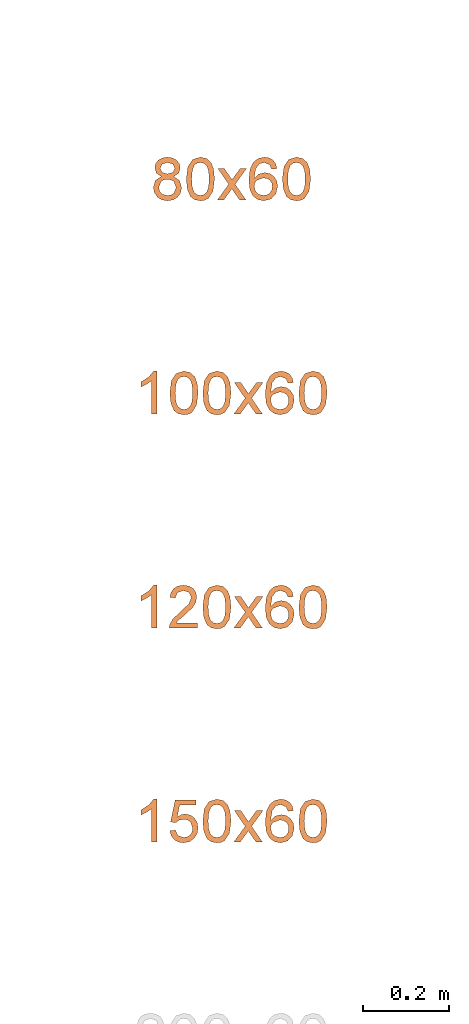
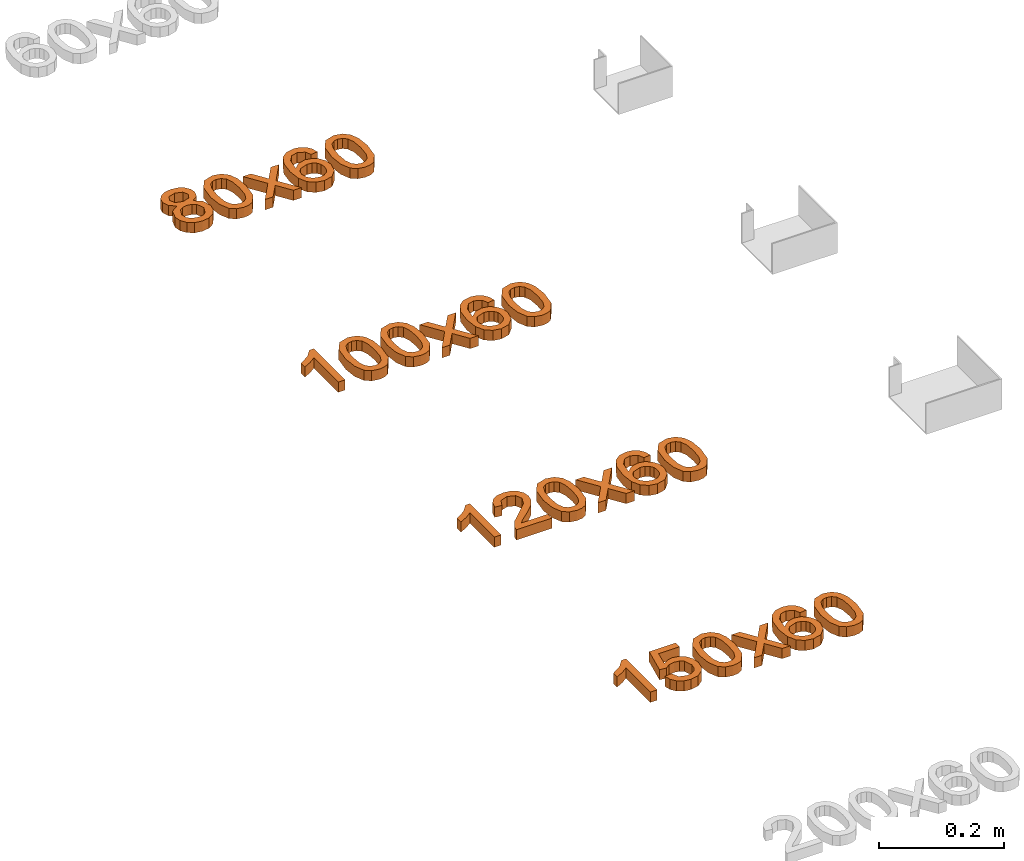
# One storey, part 44 of 71: 4 proxies.
"""IFC2X3 building model written with IfcOpenShell, lengths in millimetres."""

from ifc_helpers import new_model, entity, si_unit, converted_unit, derived_unit, direction, frame, origin, place, context, subcontext, project, spatial, polyline, outline, extrude, element, save


model = new_model("IFC2X3")

# Units and contexts
model_context = context("Model", 3, precision=0.01, world=origin(), true_north=direction((6.12303176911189e-17, 1.0)))
body_context = subcontext(model_context, "Body", "Model", "MODEL_VIEW")
ifc_project = project(units=[si_unit("LENGTHUNIT", "METRE", prefix="MILLI"), si_unit("AREAUNIT", "SQUARE_METRE"), si_unit("VOLUMEUNIT", "CUBIC_METRE"), converted_unit("PLANEANGLEUNIT", "DEGREE", entity("IfcRatioMeasure", 0.0174532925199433), si_unit("PLANEANGLEUNIT", "RADIAN"), dimensions=[0, 0, 0, 0, 0, 0, 0]), si_unit("MASSUNIT", "GRAM", prefix="KILO"), derived_unit("MASSDENSITYUNIT", [(si_unit("MASSUNIT", "GRAM", prefix="KILO"), 1), (si_unit("LENGTHUNIT", "METRE"), -3)]), si_unit("TIMEUNIT", "SECOND"), si_unit("FREQUENCYUNIT", "HERTZ"), si_unit("THERMODYNAMICTEMPERATUREUNIT", "DEGREE_CELSIUS"), derived_unit("THERMALTRANSMITTANCEUNIT", [(si_unit("MASSUNIT", "GRAM", prefix="KILO"), 1), (si_unit("THERMODYNAMICTEMPERATUREUNIT", "KELVIN"), -1), (si_unit("TIMEUNIT", "SECOND"), -3)]), derived_unit("VOLUMETRICFLOWRATEUNIT", [(si_unit("LENGTHUNIT", "METRE"), 3), (si_unit("TIMEUNIT", "SECOND"), -1)]), si_unit("ELECTRICCURRENTUNIT", "AMPERE"), si_unit("ELECTRICVOLTAGEUNIT", "VOLT"), si_unit("POWERUNIT", "WATT"), si_unit("FORCEUNIT", "NEWTON", prefix="KILO"), si_unit("ILLUMINANCEUNIT", "LUX"), si_unit("LUMINOUSFLUXUNIT", "LUMEN"), si_unit("LUMINOUSINTENSITYUNIT", "CANDELA"), derived_unit("USERDEFINED", [(si_unit("MASSUNIT", "GRAM", prefix="KILO"), -1), (si_unit("LENGTHUNIT", "METRE"), -2), (si_unit("TIMEUNIT", "SECOND"), 3), (si_unit("LUMINOUSFLUXUNIT", "LUMEN"), 1)]), derived_unit("LINEARVELOCITYUNIT", [(si_unit("LENGTHUNIT", "METRE"), 1), (si_unit("TIMEUNIT", "SECOND"), -1)]), si_unit("PRESSUREUNIT", "PASCAL"), derived_unit("USERDEFINED", [(si_unit("LENGTHUNIT", "METRE"), -2), (si_unit("MASSUNIT", "GRAM", prefix="KILO"), 1), (si_unit("TIMEUNIT", "SECOND"), -2)])], contexts=[model_context])

# Site, building, storey
site_placement = place(None, origin())
site = spatial("IfcSite", under=ifc_project, at=site_placement, Name="Default", CompositionType="ELEMENT")
building_placement = place(site_placement, origin())
building = spatial("IfcBuilding", under=site, at=building_placement, Name="Наименование здания", CompositionType="ELEMENT")
storey_placement = place(building_placement, origin())
storey = spatial("IfcBuildingStorey", under=building, at=storey_placement, Name="Этаж 01", CompositionType="ELEMENT", Elevation=0.0)

# Proxies
proxy_1_placement = place(storey_placement, origin())
element("IfcBuildingElementProxy", 1, at=proxy_1_placement, inside=storey, Name="Текст модели:100 мм Arial", ObjectType="Текст модели:100 мм Arial", context=body_context, shape_type="SweptSolid", body=[
    extrude(outline(polyline([(10.1224324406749, -11.2212127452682), (26.4477736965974, -11.2212127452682), (39.6861381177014, -0.090941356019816), (44.6322314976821, 11.3078156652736), (44.5856416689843, 23.416860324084), (39.6073830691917, 34.8346290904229), (29.7584701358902, 44.1595584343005), (17.4236057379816, 49.795656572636), (4.98749274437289, 50.1469317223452), (-6.20047708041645, 45.7236060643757), (-14.7909119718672, 37.0359017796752), (-20.0781666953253, 21.0056847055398), (-14.5070621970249, 5.37692494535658), (-28.0684052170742, 5.15563707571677), (-37.7221714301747, -2.6084501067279), (-41.5236361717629, -11.9357006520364), (-41.0036870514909, -22.2232653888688), (-36.1916154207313, -32.1870777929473), (-27.116712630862, -40.5430713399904), (-16.050329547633, -45.8123091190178), (-5.18246445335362, -46.5706787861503), (4.38453303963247, -43.2361071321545), (11.5483133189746, -36.2265209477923), (15.2516244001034, -24.0826582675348), (10.1224324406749, -11.2212127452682)]), holes=[polyline([(1.34077476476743, -28.9039041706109), (-7.53771017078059, -33.9815875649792), (-20.2415350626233, -30.0339976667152), (-28.5905650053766, -19.6902819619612), (-26.9800933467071, -9.13787919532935), (-18.1108932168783, -3.87648928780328), (-5.45128168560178, -7.82385811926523), (3.15927028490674, -18.2403048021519), (1.34077476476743, -28.9039041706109)]), polyline([(29.0262968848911, 6.56051660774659), (17.1806533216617, -1.51571690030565), (9.68494123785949, -1.27757268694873), (1.95268767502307, 2.32885586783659), (-4.46267094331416, 8.27886886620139), (-7.6416115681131, 15.3010558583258), (-4.59707955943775, 29.692946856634), (7.31333657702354, 37.7994665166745), (14.8367372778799, 37.4872096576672), (22.6595729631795, 33.8012523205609), (30.3730358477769, 25.5864099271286), (32.5711030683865, 15.5727469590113), (29.0262968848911, 6.56051660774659)])]), frame((12991.8607415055, -411.654222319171, 0.0), z_axis=(0.0, 0.0, 1.0), x_axis=(-0.829266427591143, -0.558853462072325, 0.0)), (0.0, 0.0, 1.0), 20.0),
    extrude(outline(polyline([(-7.02884310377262, -33.3490673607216), (17.5323805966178, -33.3490673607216), (35.1984171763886, -27.6137612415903), (43.343984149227, -18.4876517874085), (47.0516941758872, -5.7515066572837), (46.716202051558, 4.48638208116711), (43.4465778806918, 13.0955287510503), (27.9444305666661, 25.6659118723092), (-0.314338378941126, 32.2325535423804), (-24.0296505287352, 32.367828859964), (-39.4143020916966, 28.026088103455), (-49.7293680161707, 18.9002174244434), (-54.4436715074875, 4.63998875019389), (-50.8676582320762, -14.1301059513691), (-35.4058547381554, -26.7333390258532), (-7.02884310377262, -33.3490673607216)]), holes=[polyline([(-5.77428774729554, -20.8548320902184), (-25.0157644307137, -17.3562860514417), (-36.7257089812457, -11.5717922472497), (-41.0962588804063, -4.77599682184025), (-41.9669219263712, 3.21464792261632), (-39.2244253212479, 11.2791292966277), (-32.865406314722, 17.2229259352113), (-20.9698370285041, 20.2947501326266), (-1.61768958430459, 19.7433141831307), (17.8514140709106, 16.2707701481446), (28.7803640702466, 10.7141596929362), (33.5546988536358, 3.61815959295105), (34.5599568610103, -4.47255337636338), (31.9421230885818, -12.1923199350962), (25.8471825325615, -18.1754808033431), (14.0250679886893, -21.4027476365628), (-5.77428774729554, -20.8548320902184)])]), frame((13069.7029366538, -417.512078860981, 0.0), z_axis=(0.0, 0.0, 1.0), x_axis=(0.1018515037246, -0.994799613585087, 0.0)), (0.0, 0.0, 1.0), 20.0),
    extrude(outline(polyline([(-34.530221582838, -38.4265006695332), (-19.422534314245, -38.4265006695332), (-0.341721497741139, -12.0616243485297), (2.47870713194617, -16.1328517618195), (17.8561745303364, -38.4265006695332), (32.9638617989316, -38.4265006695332), (7.40832586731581, -1.34399555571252), (33.944880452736, 35.3461020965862), (18.8371931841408, 35.3461020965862), (4.95577923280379, 16.1671874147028), (0.0261604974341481, 9.34910777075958), (-5.66374769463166, 17.6877663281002), (-17.8529044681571, 35.3461020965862), (-32.9605917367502, 35.3461020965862), (-7.6993614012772, -1.34399555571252), (-34.530221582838, -38.4265006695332)])), frame((13142.5445935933, -424.908755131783, 0.0)), (0.0, 0.0, 1.0), 20.0),
    extrude(outline(polyline([(6.79275401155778, -32.5027761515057), (18.3659045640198, -32.5027761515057), (28.1525204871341, -28.8011371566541), (35.6312934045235, -21.7178704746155), (40.2809149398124, -11.5729874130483), (41.4130789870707, 3.23667074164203), (36.1391243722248, 16.3729018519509), (21.8599739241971, 28.8803269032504), (-1.50836821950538, 38.2054593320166), (-23.6059131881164, 41.7609274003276), (-39.9814227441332, 38.5965283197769), (-51.1650797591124, 29.9216784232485), (-57.6870671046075, 16.945794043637), (-57.9805556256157, -0.0494879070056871), (-49.2081886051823, -14.3141019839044), (-33.6167855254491, -22.9350568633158), (-20.6265742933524, -24.2502330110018), (-8.97800352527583, -20.6254922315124), (0.0919027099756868, -13.035096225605), (5.34612034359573, -2.45330669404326), (5.8548316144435, 11.6447254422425), (-0.843339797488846, 24.9910631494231), (19.7707676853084, 15.5765036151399), (28.4840991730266, 4.267661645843), (28.3893512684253, -7.46374532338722), (19.995625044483, -18.1936336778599), (8.63303585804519, -19.9825396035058), (6.79275401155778, -32.5027761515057)]), holes=[polyline([(-18.7586717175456, 29.9549594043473), (-11.6328110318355, 26.3613362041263), (-6.94154076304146, 20.203831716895), (-5.85783236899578, 4.13761066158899), (-9.48331864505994, -3.95286412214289), (-15.1077394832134, -9.26901644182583), (-22.3091633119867, -11.5969098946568), (-30.665658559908, -10.7226080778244), (-38.6094491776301, -7.06141592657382), (-43.8637090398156, -1.22509865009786), (-46.18352871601, 6.17768396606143), (-45.3239987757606, 14.5382721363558), (-39.6901171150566, 24.7221971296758), (-30.0168134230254, 30.0585493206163), (-18.7586717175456, 29.9549594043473)])]), frame((13218.2025234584, -404.787517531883, 0.0), z_axis=(0.0, 0.0, 1.0), x_axis=(-0.267015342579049, 0.963692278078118, 0.0)), (0.0, 0.0, 1.0), 20.0),
    extrude(outline(polyline([(-7.02884310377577, -33.3490673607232), (17.5323805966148, -33.3490673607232), (35.1984171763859, -27.6137612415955), (43.3439841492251, -18.4876517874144), (47.0516941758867, -5.75150665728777), (46.7162020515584, 4.48638208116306), (43.4465778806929, 13.0955287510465), (27.9444305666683, 25.6659118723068), (-0.314338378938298, 32.2325535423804), (-24.0296505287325, 32.367828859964), (-39.4143020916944, 28.0260881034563), (-49.7293680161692, 18.9002174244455), (-54.4436715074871, 4.6399887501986), (-50.8676582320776, -14.1301059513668), (-35.4058547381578, -26.7333390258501), (-7.02884310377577, -33.3490673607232)]), holes=[polyline([(-5.77428774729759, -20.85483209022), (-25.0157644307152, -17.3562860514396), (-36.7257089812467, -11.5717922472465), (-41.0962588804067, -4.77599682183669), (-41.9669219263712, 3.2146479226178), (-39.2244253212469, 11.2791292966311), (-32.8654063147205, 17.2229259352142), (-20.9698370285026, 20.2947501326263), (-1.61768958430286, 19.7433141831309), (17.851414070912, 16.270770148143), (28.7803640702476, 10.7141596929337), (33.5546988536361, 3.61815959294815), (34.5599568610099, -4.47255337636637), (31.9421230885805, -12.1923199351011), (25.8471825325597, -18.1754808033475), (14.0250679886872, -21.4027476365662), (-5.77428774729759, -20.85483209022)])]), frame((13294.1600046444, -417.512078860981, 0.0), z_axis=(0.0, 0.0, 1.0), x_axis=(0.101851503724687, -0.994799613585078, 0.0)), (0.0, 0.0, 1.0), 20.0),
])
proxy_2_placement = place(storey_placement, origin())
element("IfcBuildingElementProxy", 2, at=proxy_2_placement, inside=storey, Name="Текст модели:100 мм Arial", ObjectType="Текст модели:100 мм Arial", context=body_context, shape_type="SweptSolid", body=[
    extrude(outline(polyline([(-63.8793021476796, -16.918484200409), (36.5770080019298, -16.918484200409), (36.5770080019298, -8.825080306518), (23.2106288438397, 2.34626961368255), (11.4629304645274, 20.7526321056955), (-0.407395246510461, 20.7526321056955), (5.93243780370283, 7.53340574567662), (14.4059864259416, -4.36144543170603), (-63.8793021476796, -4.36144543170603), (-63.8793021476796, -16.918484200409)])), frame((12950.6140165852, -1399.45595365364, 0.0), z_axis=(0.0, 0.0, 1.0), x_axis=(0.0, 1.0, 0.0)), (0.0, 0.0, 1.0), 20.0),
    extrude(outline(polyline([(-32.385878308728, -45.1669477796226), (-32.385878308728, -57.7239865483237), (33.5385752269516, -57.7239865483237), (32.1896745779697, -49.0664969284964), (24.5622545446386, -35.736905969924), (8.84143061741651, -21.1810416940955), (-12.8390816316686, -0.260818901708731), (-18.2592096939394, 13.9639515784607), (-13.1456499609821, 25.4786580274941), (0.208466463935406, 30.1752848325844), (14.1266686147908, 25.5890226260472), (19.4119066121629, 12.9093565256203), (31.9689453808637, 14.4789863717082), (28.9247218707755, 26.6252235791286), (22.3426998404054, 35.4973110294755), (12.5662358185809, 40.9235704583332), (-0.0613136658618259, 42.7323236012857), (-12.7808336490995, 40.721235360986), (-22.5389035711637, 34.6879706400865), (-28.746912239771, 25.6748617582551), (-30.8162484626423, 14.7242410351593), (-28.5844310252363, 2.81712712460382), (-21.1654774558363, -9.49465698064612), (-3.17604789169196, -26.6992716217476), (11.2694517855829, -38.778063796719), (16.9348345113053, -45.1669477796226), (-32.385878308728, -45.1669477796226)])), frame((13029.3244132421, -1405.61126925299, 0.0), z_axis=(0.0, 0.0, -1.0), x_axis=(-1.0, 0.0, 0.0)), (0.0, 0.0, -1.0), 20.0),
    extrude(outline(polyline([(-7.0288431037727, -33.3490673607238), (17.5323805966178, -33.3490673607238), (35.1984171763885, -27.6137612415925), (43.3439841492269, -18.4876517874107), (47.051694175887, -5.75150665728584), (46.7162020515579, 4.48638208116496), (43.4465778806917, 13.0955287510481), (27.9444305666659, 25.665911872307), (-0.31433837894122, 32.2325535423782), (-24.0296505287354, 32.3678288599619), (-39.4143020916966, 28.0260881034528), (-49.7293680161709, 18.9002174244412), (-54.4436715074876, 4.6399887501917), (-50.8676582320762, -14.1301059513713), (-35.4058547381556, -26.7333390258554), (-7.0288431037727, -33.3490673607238)]), holes=[polyline([(-5.77428774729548, -20.8548320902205), (-25.0157644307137, -17.3562860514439), (-36.7257089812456, -11.5717922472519), (-41.0962588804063, -4.77599682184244), (-41.9669219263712, 3.21464792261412), (-39.2244253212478, 11.2791292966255), (-32.8654063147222, 17.2229259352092), (-20.9698370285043, 20.2947501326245), (-1.61768958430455, 19.7433141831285), (17.8514140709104, 16.2707701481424), (28.7803640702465, 10.7141596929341), (33.5546988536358, 3.61815959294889), (34.5599568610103, -4.47255337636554), (31.9421230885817, -12.1923199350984), (25.8471825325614, -18.1754808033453), (14.0250679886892, -21.402747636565), (-5.77428774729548, -20.8548320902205)])]), frame((13108.158867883, -1417.51207886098, 0.0), z_axis=(0.0, 0.0, 1.0), x_axis=(0.1018515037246, -0.994799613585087, 0.0)), (0.0, 0.0, 1.0), 20.0),
    extrude(outline(polyline([(-34.5302215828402, -38.4265006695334), (-19.4225343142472, -38.4265006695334), (-0.341721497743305, -12.0616243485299), (2.478707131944, -16.1328517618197), (17.8561745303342, -38.4265006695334), (32.9638617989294, -38.4265006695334), (7.40832586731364, -1.34399555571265), (33.9448804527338, 35.3461020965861), (18.8371931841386, 35.3461020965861), (4.95577923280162, 16.1671874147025), (0.0261604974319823, 9.34910777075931), (-5.66374769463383, 17.6877663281), (-17.8529044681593, 35.3461020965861), (-32.9605917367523, 35.3461020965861), (-7.69936140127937, -1.34399555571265), (-34.5302215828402, -38.4265006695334)])), frame((13181.0005248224, -1424.90875513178, 0.0)), (0.0, 0.0, 1.0), 20.0),
    extrude(outline(polyline([(6.79275401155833, -32.5027761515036), (18.3659045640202, -32.5027761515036), (28.1525204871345, -28.8011371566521), (35.6312934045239, -21.7178704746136), (40.280914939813, -11.5729874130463), (41.4130789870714, 3.23667074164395), (36.1391243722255, 16.3729018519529), (21.8599739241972, 28.8803269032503), (-1.50836821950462, 38.2054593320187), (-23.6059131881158, 41.7609274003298), (-39.9814227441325, 38.5965283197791), (-51.1650797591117, 29.9216784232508), (-57.6870671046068, 16.9457940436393), (-57.9805556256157, -0.0494879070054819), (-49.2081886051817, -14.3141019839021), (-33.6167855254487, -22.9350568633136), (-20.6265742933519, -24.2502330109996), (-8.97800352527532, -20.6254922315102), (0.091902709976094, -13.0350962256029), (5.34612034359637, -2.45330669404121), (5.85483161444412, 11.6447254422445), (-0.84333979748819, 24.9910631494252), (19.7707676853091, 15.5765036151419), (28.4840991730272, 4.26766164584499), (28.3893512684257, -7.46374532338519), (19.9956250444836, -18.1936336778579), (8.63303585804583, -19.9825396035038), (6.79275401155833, -32.5027761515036)]), holes=[polyline([(-18.758671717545, 29.9549594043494), (-11.6328110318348, 26.3613362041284), (-6.94154076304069, 20.2038317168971), (-5.85783236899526, 4.13761066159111), (-9.48331864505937, -3.95286412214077), (-15.1077394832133, -9.26901644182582), (-22.3091633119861, -11.5969098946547), (-30.6656585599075, -10.7226080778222), (-38.60944917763, -7.0614159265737), (-43.863709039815, -1.22509865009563), (-46.1835287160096, 6.17768396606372), (-45.32399877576, 14.538272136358), (-39.6901171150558, 24.722197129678), (-30.0168134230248, 30.0585493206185), (-18.758671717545, 29.9549594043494)])]), frame((13256.6584546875, -1404.78751753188, 0.0), z_axis=(0.0, 0.0, 1.0), x_axis=(-0.267015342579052, 0.963692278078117, 0.0)), (0.0, 0.0, 1.0), 20.0),
    extrude(outline(polyline([(-7.02884310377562, -33.3490673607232), (17.5323805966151, -33.3490673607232), (35.1984171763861, -27.6137612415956), (43.3439841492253, -18.4876517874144), (47.0516941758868, -5.75150665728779), (46.7162020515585, 4.48638208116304), (43.446577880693, 13.0955287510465), (27.9444305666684, 25.6659118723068), (-0.314338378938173, 32.2325535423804), (-24.0296505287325, 32.367828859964), (-39.4143020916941, 28.0260881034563), (-49.7293680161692, 18.9002174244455), (-54.4436715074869, 4.63998875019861), (-50.8676582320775, -14.1301059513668), (-35.4058547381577, -26.7333390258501), (-7.02884310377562, -33.3490673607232)]), holes=[polyline([(-5.77428774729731, -20.85483209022), (-25.015764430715, -17.3562860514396), (-36.7257089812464, -11.5717922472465), (-41.0962588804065, -4.7759968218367), (-41.9669219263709, 3.21464792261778), (-39.2244253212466, 11.279129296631), (-32.8654063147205, 17.2229259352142), (-20.9698370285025, 20.2947501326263), (-1.61768958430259, 19.7433141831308), (17.851414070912, 16.270770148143), (28.7803640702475, 10.7141596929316), (33.5546988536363, 3.61815959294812), (34.5599568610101, -4.4725533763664), (31.9421230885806, -12.1923199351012), (25.8471825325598, -18.1754808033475), (14.0250679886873, -21.4027476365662), (-5.77428774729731, -20.85483209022)])]), frame((13332.6159358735, -1417.51207886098, 0.0), z_axis=(0.0, 0.0, 1.0), x_axis=(0.101851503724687, -0.994799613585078, 0.0)), (0.0, 0.0, 1.0), 20.0),
])
proxy_3_placement = place(storey_placement, origin())
element("IfcBuildingElementProxy", 3, at=proxy_3_placement, inside=storey, Name="Текст модели:100 мм Arial", ObjectType="Текст модели:100 мм Arial", context=body_context, shape_type="SweptSolid", body=[
    extrude(outline(polyline([(-63.8793021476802, -16.918484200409), (36.5770080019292, -16.918484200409), (36.5770080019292, -8.825080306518), (23.2106288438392, 2.34626961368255), (11.4629304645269, 20.7526321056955), (-0.407395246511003, 20.7526321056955), (5.93243780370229, 7.53340574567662), (14.4059864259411, -4.36144543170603), (-63.8793021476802, -4.36144543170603), (-63.8793021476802, -16.918484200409)])), frame((12950.6140165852, -1899.45595365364, 0.0), z_axis=(0.0, 0.0, 1.0), x_axis=(0.0, 1.0, 0.0)), (0.0, 0.0, 1.0), 20.0),
    extrude(outline(polyline([(3.81439562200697, -37.2548959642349), (15.7323946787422, -37.2548959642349), (26.1588137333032, -33.0579698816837), (34.2921694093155, -25.0537205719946), (39.3309783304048, -13.6317508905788), (40.2219288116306, 1.43409098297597), (34.3991305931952, 14.6815107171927), (25.5350217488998, 23.148189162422), (13.9054384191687, 28.2770976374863), (0.912111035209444, 29.4702838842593), (-10.7159258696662, 25.7768606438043), (-19.7427074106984, 18.0989984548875), (-24.9322687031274, 7.33886785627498), (-25.5937300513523, -2.21124798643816), (-22.637024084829, -12.2793380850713), (-47.9924930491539, 0.0204883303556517), (-38.0977082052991, 37.2324069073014), (-50.2330599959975, 40.4592412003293), (-62.7370428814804, -6.56524698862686), (-15.5021967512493, -30.4943712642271), (-10.7584434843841, -18.7623737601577), (-14.4216298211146, -10.4922324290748), (-13.6981616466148, 0.722667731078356), (-9.98738154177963, 9.35727561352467), (-4.32553373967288, 14.6878856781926), (11.4370636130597, 15.9400687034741), (19.7481682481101, 12.277242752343), (25.4355726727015, 6.40632241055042), (28.0665145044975, -1.27212018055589), (27.2082313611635, -10.3575128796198), (19.6530635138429, -21.925631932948), (5.52431094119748, -24.7161898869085), (3.81439562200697, -37.2548959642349)])), frame((13032.3790792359, -1923.39170175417, 0.0), z_axis=(0.0, 0.0, 1.0), x_axis=(0.256974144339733, -0.966418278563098, 0.0)), (0.0, 0.0, 1.0), 20.0),
    extrude(outline(polyline([(-7.0288431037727, -33.3490673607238), (17.5323805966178, -33.3490673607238), (35.1984171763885, -27.6137612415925), (43.3439841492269, -18.4876517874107), (47.051694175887, -5.75150665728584), (46.7162020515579, 4.48638208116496), (43.4465778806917, 13.0955287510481), (27.9444305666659, 25.665911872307), (-0.31433837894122, 32.2325535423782), (-24.0296505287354, 32.3678288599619), (-39.4143020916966, 28.0260881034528), (-49.7293680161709, 18.9002174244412), (-54.4436715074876, 4.6399887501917), (-50.8676582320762, -14.1301059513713), (-35.4058547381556, -26.7333390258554), (-7.0288431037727, -33.3490673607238)]), holes=[polyline([(-5.77428774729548, -20.8548320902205), (-25.0157644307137, -17.3562860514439), (-36.7257089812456, -11.5717922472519), (-41.0962588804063, -4.77599682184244), (-41.9669219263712, 3.21464792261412), (-39.2244253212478, 11.2791292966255), (-32.8654063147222, 17.2229259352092), (-20.9698370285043, 20.2947501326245), (-1.61768958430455, 19.7433141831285), (17.8514140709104, 16.2707701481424), (28.7803640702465, 10.7141596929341), (33.5546988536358, 3.61815959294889), (34.5599568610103, -4.47255337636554), (31.9421230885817, -12.1923199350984), (25.8471825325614, -18.1754808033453), (14.0250679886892, -21.402747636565), (-5.77428774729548, -20.8548320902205)])]), frame((13108.158867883, -1917.51207886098, 0.0), z_axis=(0.0, 0.0, 1.0), x_axis=(0.1018515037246, -0.994799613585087, 0.0)), (0.0, 0.0, 1.0), 20.0),
    extrude(outline(polyline([(-34.5302215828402, -38.4265006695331), (-19.4225343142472, -38.4265006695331), (-0.341721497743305, -12.0616243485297), (2.478707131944, -16.1328517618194), (17.8561745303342, -38.4265006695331), (32.9638617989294, -38.4265006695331), (7.40832586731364, -1.34399555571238), (33.9448804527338, 35.3461020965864), (18.8371931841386, 35.3461020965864), (4.95577923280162, 16.1671874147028), (0.0261604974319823, 9.34910777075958), (-5.66374769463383, 17.6877663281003), (-17.8529044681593, 35.3461020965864), (-32.9605917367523, 35.3461020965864), (-7.69936140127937, -1.34399555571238), (-34.5302215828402, -38.4265006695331)])), frame((13181.0005248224, -1924.90875513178, 0.0)), (0.0, 0.0, 1.0), 20.0),
    extrude(outline(polyline([(6.79275401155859, -32.5027761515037), (18.3659045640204, -32.5027761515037), (28.1525204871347, -28.8011371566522), (35.6312934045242, -21.7178704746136), (40.2809149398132, -11.5729874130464), (41.4130789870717, 3.23667074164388), (36.1391243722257, 16.3729018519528), (21.8599739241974, 28.8803269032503), (-1.50836821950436, 38.2054593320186), (-23.6059131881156, 41.7609274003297), (-39.9814227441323, 38.596528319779), (-51.1650797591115, 29.9216784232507), (-57.6870671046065, 16.9457940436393), (-57.9805556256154, -0.0494879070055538), (-49.2081886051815, -14.3141019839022), (-33.6167855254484, -22.9350568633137), (-20.6265742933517, -24.2502330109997), (-8.97800352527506, -20.6254922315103), (0.0919027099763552, -13.0350962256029), (5.34612034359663, -2.45330669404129), (5.85483161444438, 11.6447254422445), (-0.843339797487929, 24.9910631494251), (19.7707676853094, 15.5765036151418), (28.4840991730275, 4.26766164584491), (28.3893512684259, -7.46374532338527), (19.9956250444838, -18.193633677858), (8.63303585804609, -19.9825396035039), (6.79275401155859, -32.5027761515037)]), holes=[polyline([(-18.7586717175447, 29.9549594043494), (-11.6328110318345, 26.3613362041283), (-6.94154076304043, 20.203831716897), (-5.85783236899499, 4.13761066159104), (-9.48331864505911, -3.95286412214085), (-15.1077394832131, -9.26901644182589), (-22.3091633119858, -11.5969098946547), (-30.6656585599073, -10.7226080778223), (-38.6094491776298, -7.06141592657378), (-43.8637090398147, -1.22509865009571), (-46.1835287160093, 6.17768396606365), (-45.3239987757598, 14.538272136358), (-39.6901171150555, 24.7221971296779), (-30.0168134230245, 30.0585493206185), (-18.7586717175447, 29.9549594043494)])]), frame((13256.6584546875, -1904.78751753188, 0.0), z_axis=(0.0, 0.0, 1.0), x_axis=(-0.267015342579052, 0.963692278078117, 0.0)), (0.0, 0.0, 1.0), 20.0),
    extrude(outline(polyline([(-7.02884310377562, -33.3490673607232), (17.5323805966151, -33.3490673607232), (35.1984171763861, -27.6137612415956), (43.3439841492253, -18.4876517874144), (47.0516941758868, -5.75150665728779), (46.7162020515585, 4.48638208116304), (43.446577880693, 13.0955287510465), (27.9444305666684, 25.6659118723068), (-0.314338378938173, 32.2325535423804), (-24.0296505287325, 32.367828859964), (-39.4143020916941, 28.0260881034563), (-49.7293680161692, 18.9002174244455), (-54.4436715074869, 4.63998875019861), (-50.8676582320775, -14.1301059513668), (-35.4058547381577, -26.7333390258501), (-7.02884310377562, -33.3490673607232)]), holes=[polyline([(-5.77428774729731, -20.85483209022), (-25.015764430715, -17.3562860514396), (-36.7257089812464, -11.5717922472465), (-41.0962588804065, -4.7759968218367), (-41.9669219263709, 3.21464792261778), (-39.2244253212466, 11.279129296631), (-32.8654063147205, 17.2229259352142), (-20.9698370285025, 20.2947501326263), (-1.61768958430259, 19.7433141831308), (17.851414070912, 16.270770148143), (28.7803640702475, 10.7141596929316), (33.5546988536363, 3.61815959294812), (34.5599568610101, -4.4725533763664), (31.9421230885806, -12.1923199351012), (25.8471825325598, -18.1754808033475), (14.0250679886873, -21.4027476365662), (-5.77428774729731, -20.85483209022)])]), frame((13332.6159358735, -1917.51207886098, 0.0), z_axis=(0.0, 0.0, 1.0), x_axis=(0.101851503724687, -0.994799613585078, 0.0)), (0.0, 0.0, 1.0), 20.0),
])
proxy_4_placement = place(storey_placement, origin())
element("IfcBuildingElementProxy", 4, at=proxy_4_placement, inside=storey, Name="Текст модели:100 мм Arial", ObjectType="Текст модели:100 мм Arial", context=body_context, shape_type="SweptSolid", body=[
    extrude(outline(polyline([(-63.8793021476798, -16.918484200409), (36.5770080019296, -16.918484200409), (36.5770080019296, -8.825080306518), (23.2106288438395, 2.34626961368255), (11.4629304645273, 20.7526321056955), (-0.407395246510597, 20.7526321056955), (5.93243780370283, 7.53340574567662), (14.4059864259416, -4.36144543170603), (-63.8793021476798, -4.36144543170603), (-63.8793021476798, -16.918484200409)])), frame((12950.6140165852, -899.455953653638, 0.0), z_axis=(0.0, 0.0, 1.0), x_axis=(0.0, 1.0, 0.0)), (0.0, 0.0, 1.0), 20.0),
    extrude(outline(polyline([(-7.02884310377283, -33.3490673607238), (17.5323805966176, -33.3490673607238), (35.1984171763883, -27.6137612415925), (43.3439841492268, -18.4876517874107), (47.0516941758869, -5.75150665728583), (46.7162020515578, 4.48638208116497), (43.4465778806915, 13.0955287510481), (27.9444305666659, 25.665911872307), (-0.314338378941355, 32.2325535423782), (-24.0296505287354, 32.3678288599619), (-39.4143020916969, 28.0260881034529), (-49.7293680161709, 18.9002174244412), (-54.4436715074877, 4.63998875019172), (-50.8676582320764, -14.1301059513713), (-35.4058547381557, -26.7333390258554), (-7.02884310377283, -33.3490673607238)]), holes=[polyline([(-5.77428774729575, -20.8548320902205), (-25.0157644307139, -17.3562860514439), (-36.7257089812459, -11.5717922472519), (-41.0962588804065, -4.77599682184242), (-41.9669219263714, 3.21464792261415), (-39.2244253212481, 11.2791292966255), (-32.8654063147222, 17.2229259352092), (-20.9698370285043, 20.2947501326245), (-1.61768958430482, 19.7433141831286), (17.8514140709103, 16.2707701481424), (28.7803640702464, 10.7141596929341), (33.5546988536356, 3.6181595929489), (34.55995686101, -4.47255337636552), (31.9421230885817, -12.1923199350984), (25.8471825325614, -18.1754808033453), (14.0250679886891, -21.4027476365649), (-5.77428774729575, -20.8548320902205)])]), frame((13031.2470054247, -917.512078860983, 0.0), z_axis=(0.0, 0.0, 1.0), x_axis=(0.1018515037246, -0.994799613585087, 0.0)), (0.0, 0.0, 1.0), 20.0),
    extrude(outline(polyline([(-7.02884310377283, -33.3490673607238), (17.5323805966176, -33.3490673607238), (35.1984171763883, -27.6137612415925), (43.3439841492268, -18.4876517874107), (47.0516941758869, -5.75150665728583), (46.7162020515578, 4.48638208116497), (43.4465778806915, 13.0955287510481), (27.9444305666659, 25.665911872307), (-0.314338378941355, 32.2325535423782), (-24.0296505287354, 32.3678288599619), (-39.4143020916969, 28.0260881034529), (-49.7293680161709, 18.9002174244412), (-54.4436715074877, 4.63998875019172), (-50.8676582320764, -14.1301059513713), (-35.4058547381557, -26.7333390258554), (-7.02884310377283, -33.3490673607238)]), holes=[polyline([(-5.77428774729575, -20.8548320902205), (-25.0157644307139, -17.3562860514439), (-36.7257089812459, -11.5717922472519), (-41.0962588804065, -4.77599682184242), (-41.9669219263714, 3.21464792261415), (-39.2244253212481, 11.2791292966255), (-32.8654063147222, 17.2229259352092), (-20.9698370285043, 20.2947501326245), (-1.61768958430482, 19.7433141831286), (17.8514140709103, 16.2707701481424), (28.7803640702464, 10.7141596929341), (33.5546988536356, 3.6181595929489), (34.55995686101, -4.47255337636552), (31.9421230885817, -12.1923199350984), (25.8471825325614, -18.1754808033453), (14.0250679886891, -21.4027476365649), (-5.77428774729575, -20.8548320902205)])]), frame((13108.158867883, -917.512078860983, 0.0), z_axis=(0.0, 0.0, 1.0), x_axis=(0.1018515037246, -0.994799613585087, 0.0)), (0.0, 0.0, 1.0), 20.0),
    extrude(outline(polyline([(-34.5302215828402, -38.4265006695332), (-19.4225343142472, -38.4265006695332), (-0.341721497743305, -12.0616243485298), (2.478707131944, -16.1328517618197), (17.8561745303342, -38.4265006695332), (32.9638617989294, -38.4265006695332), (7.40832586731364, -1.34399555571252), (33.9448804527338, 35.3461020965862), (18.8371931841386, 35.3461020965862), (4.95577923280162, 16.1671874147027), (0.0261604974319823, 9.34910777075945), (-5.66374769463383, 17.6877663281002), (-17.8529044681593, 35.3461020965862), (-32.9605917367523, 35.3461020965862), (-7.69936140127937, -1.34399555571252), (-34.5302215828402, -38.4265006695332)])), frame((13181.0005248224, -924.908755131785, 0.0)), (0.0, 0.0, 1.0), 20.0),
    extrude(outline(polyline([(6.79275401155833, -32.5027761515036), (18.3659045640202, -32.5027761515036), (28.1525204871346, -28.8011371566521), (35.6312934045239, -21.7178704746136), (40.280914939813, -11.5729874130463), (41.4130789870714, 3.23667074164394), (36.1391243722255, 16.3729018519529), (21.8599739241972, 28.8803269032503), (-1.50836821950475, 38.2054593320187), (-23.6059131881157, 41.7609274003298), (-39.9814227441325, 38.5965283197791), (-51.1650797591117, 29.9216784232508), (-57.6870671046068, 16.9457940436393), (-57.9805556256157, -0.0494879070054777), (-49.2081886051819, -14.3141019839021), (-33.6167855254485, -22.9350568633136), (-20.6265742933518, -24.2502330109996), (-8.97800352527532, -20.6254922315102), (0.0919027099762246, -13.0350962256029), (5.34612034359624, -2.45330669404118), (5.85483161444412, 11.6447254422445), (-0.84333979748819, 24.9910631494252), (19.770767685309, 15.5765036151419), (28.4840991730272, 4.26766164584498), (28.3893512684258, -7.46374532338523), (19.9956250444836, -18.1936336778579), (8.6330358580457, -19.9825396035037), (6.79275401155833, -32.5027761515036)]), holes=[polyline([(-18.758671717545, 29.9549594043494), (-11.6328110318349, 26.3613362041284), (-6.94154076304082, 20.2038317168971), (-5.85783236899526, 4.13761066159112), (-9.48331864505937, -3.95286412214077), (-15.1077394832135, -9.26901644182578), (-22.3091633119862, -11.5969098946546), (-30.6656585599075, -10.7226080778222), (-38.6094491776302, -7.06141592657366), (-43.8637090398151, -1.22509865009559), (-46.1835287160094, 6.17768396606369), (-45.3239987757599, 14.538272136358), (-39.6901171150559, 24.722197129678), (-30.0168134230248, 30.0585493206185), (-18.758671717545, 29.9549594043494)])]), frame((13256.6584546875, -904.787517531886, 0.0), z_axis=(0.0, 0.0, 1.0), x_axis=(-0.267015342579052, 0.963692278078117, 0.0)), (0.0, 0.0, 1.0), 20.0),
    extrude(outline(polyline([(-7.02884310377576, -33.3490673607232), (17.5323805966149, -33.3490673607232), (35.1984171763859, -27.6137612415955), (43.3439841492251, -18.4876517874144), (47.0516941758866, -5.75150665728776), (46.7162020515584, 4.48638208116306), (43.4465778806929, 13.0955287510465), (27.9444305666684, 25.6659118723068), (-0.314338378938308, 32.2325535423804), (-24.0296505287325, 32.367828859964), (-39.4143020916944, 28.0260881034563), (-49.7293680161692, 18.9002174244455), (-54.4436715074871, 4.63998875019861), (-50.8676582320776, -14.1301059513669), (-35.4058547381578, -26.7333390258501), (-7.02884310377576, -33.3490673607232)]), holes=[polyline([(-5.77428774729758, -20.85483209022), (-25.0157644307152, -17.3562860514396), (-36.7257089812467, -11.5717922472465), (-41.0962588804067, -4.7759968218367), (-41.9669219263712, 3.2146479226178), (-39.2244253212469, 11.2791292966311), (-32.8654063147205, 17.2229259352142), (-20.9698370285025, 20.2947501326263), (-1.61768958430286, 19.7433141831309), (17.8514140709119, 16.270770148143), (28.7803640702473, 10.7141596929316), (33.5546988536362, 3.61815959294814), (34.5599568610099, -4.47255337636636), (31.9421230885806, -12.1923199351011), (25.8471825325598, -18.1754808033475), (14.0250679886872, -21.4027476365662), (-5.77428774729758, -20.85483209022)])]), frame((13332.6159358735, -917.512078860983, 0.0), z_axis=(0.0, 0.0, 1.0), x_axis=(0.101851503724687, -0.994799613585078, 0.0)), (0.0, 0.0, 1.0), 20.0),
])

save(model, "model.ifc")
